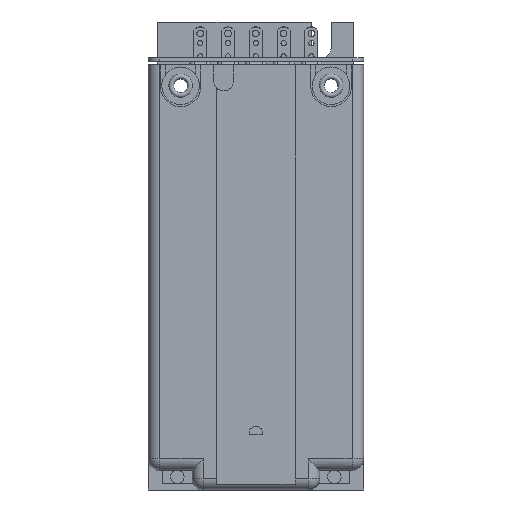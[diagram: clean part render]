
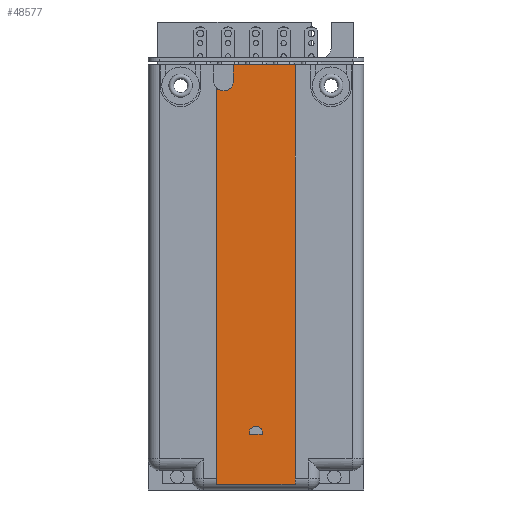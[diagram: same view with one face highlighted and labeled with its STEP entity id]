
A CAD part, front view. The second image highlights one B-rep face of the part: STEP entity #48577.
In plain terms, the highlighted planar face has unit normal (0, -1, 0).
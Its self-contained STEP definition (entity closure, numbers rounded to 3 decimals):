
#46119=CARTESIAN_POINT('',(-12.,35.725,-5.065));
#46120=VERTEX_POINT('',#46119);
#46129=CARTESIAN_POINT('',(-6.848,35.725,-2.975));
#46130=VERTEX_POINT('',#46129);
#46131=CARTESIAN_POINT('',(-9.848,35.725,-2.975));
#46132=DIRECTION('',(0.0,1.0,0.0));
#46133=DIRECTION('',(1.0,0.0,0.0));
#46134=AXIS2_PLACEMENT_3D('',#46131,#46132,#46133);
#46135=CIRCLE('',#46134,3.);
#46136=EDGE_CURVE('',#46130,#46120,#46135,.T.);
#46169=CARTESIAN_POINT('',(-6.848,35.725,2.025));
#46170=VERTEX_POINT('',#46169);
#46171=CARTESIAN_POINT('',(-6.848,35.725,2.025));
#46172=DIRECTION('',(0.0,0.0,-1.0));
#46173=VECTOR('',#46172,5.);
#46174=LINE('',#46171,#46173);
#46175=EDGE_CURVE('',#46170,#46130,#46174,.T.);
#46309=CARTESIAN_POINT('',(12.,35.725,2.025));
#46310=VERTEX_POINT('',#46309);
#46311=CARTESIAN_POINT('',(-6.848,35.725,2.025));
#46312=DIRECTION('',(1.0,0.0,0.0));
#46313=VECTOR('',#46312,18.848);
#46314=LINE('',#46311,#46313);
#46315=EDGE_CURVE('',#46170,#46310,#46314,.T.);
#47377=CARTESIAN_POINT('',(-1.936,35.725,-110.975));
#47378=VERTEX_POINT('',#47377);
#47385=CARTESIAN_POINT('',(1.936,35.725,-110.975));
#47386=VERTEX_POINT('',#47385);
#47387=CARTESIAN_POINT('',(-1.936,35.725,-110.975));
#47388=DIRECTION('',(1.0,0.0,0.0));
#47389=VECTOR('',#47388,3.873);
#47390=LINE('',#47387,#47389);
#47391=EDGE_CURVE('',#47378,#47386,#47390,.T.);
#47426=CARTESIAN_POINT('',(0.,35.725,-110.475));
#47427=DIRECTION('',(0.0,1.0,0.0));
#47428=DIRECTION('',(1.0,0.0,0.0));
#47429=AXIS2_PLACEMENT_3D('',#47426,#47427,#47428);
#47430=CIRCLE('',#47429,2.);
#47431=EDGE_CURVE('',#47378,#47386,#47430,.T.);
#48512=CARTESIAN_POINT('',(-12.,35.725,-126.278));
#48513=VERTEX_POINT('',#48512);
#48521=CARTESIAN_POINT('',(-12.,35.725,-5.065));
#48522=DIRECTION('',(0.0,0.0,-1.0));
#48523=VECTOR('',#48522,121.213);
#48524=LINE('',#48521,#48523);
#48525=EDGE_CURVE('',#46120,#48513,#48524,.T.);
#48535=CARTESIAN_POINT('',(12.,35.725,-126.278));
#48536=VERTEX_POINT('',#48535);
#48546=CARTESIAN_POINT('',(12.,35.725,-126.278));
#48547=DIRECTION('',(0.0,0.0,1.0));
#48548=VECTOR('',#48547,128.303);
#48549=LINE('',#48546,#48548);
#48550=EDGE_CURVE('',#48536,#46310,#48549,.T.);
#48555=CARTESIAN_POINT('',(0.,35.725,-62.975));
#48556=DIRECTION('',(0.0,1.0,0.0));
#48557=DIRECTION('',(0.0,0.0,1.0));
#48558=AXIS2_PLACEMENT_3D('',#48555,#48556,#48557);
#48559=PLANE('',#48558);
#48560=ORIENTED_EDGE('',*,*,#46136,.T.);
#48561=ORIENTED_EDGE('',*,*,#48525,.T.);
#48562=CARTESIAN_POINT('',(12.,35.725,-126.278));
#48563=DIRECTION('',(-1.0,0.0,0.0));
#48564=VECTOR('',#48563,24.);
#48565=LINE('',#48562,#48564);
#48566=EDGE_CURVE('',#48536,#48513,#48565,.T.);
#48567=ORIENTED_EDGE('',*,*,#48566,.F.);
#48568=ORIENTED_EDGE('',*,*,#48550,.T.);
#48569=ORIENTED_EDGE('',*,*,#46315,.F.);
#48570=ORIENTED_EDGE('',*,*,#46175,.T.);
#48571=EDGE_LOOP('',(#48560,#48561,#48567,#48568,#48569,#48570));
#48572=FACE_OUTER_BOUND('',#48571,.T.);
#48573=ORIENTED_EDGE('',*,*,#47431,.T.);
#48574=ORIENTED_EDGE('',*,*,#47391,.F.);
#48575=EDGE_LOOP('',(#48573,#48574));
#48576=FACE_BOUND('',#48575,.T.);
#48577=ADVANCED_FACE('',(#48572,#48576),#48559,.F.);
